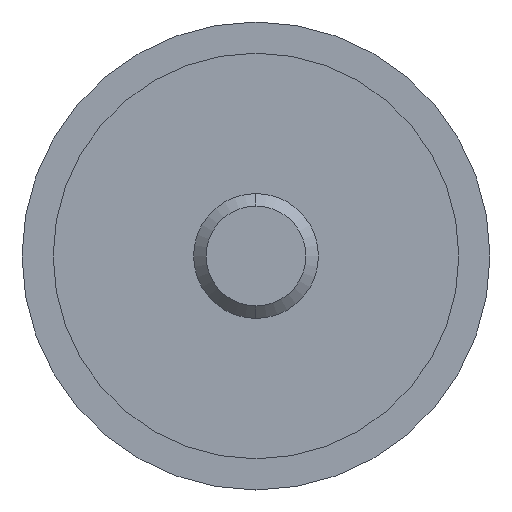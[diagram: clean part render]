
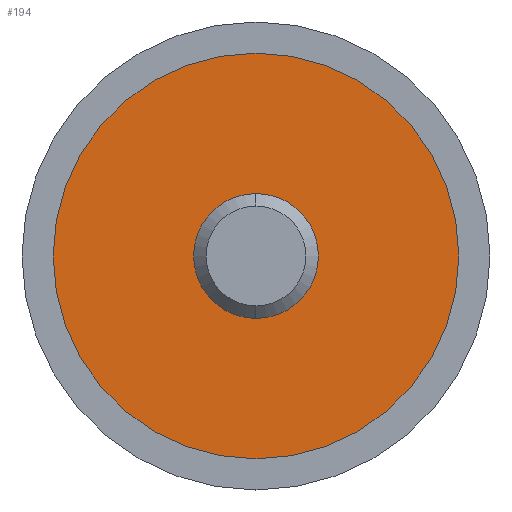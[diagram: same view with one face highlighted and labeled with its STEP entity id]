
A CAD part, left-side view. The second image highlights one B-rep face of the part: STEP entity #194.
In plain terms, the highlighted planar face has unit normal (-1, 0, 0).
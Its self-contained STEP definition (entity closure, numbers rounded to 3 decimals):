
#5 = ORIENTED_EDGE ( 'NONE', *, *, #678, .F. ) ;
#10 = AXIS2_PLACEMENT_3D ( 'NONE', #648, #281, #602 ) ;
#15 = CARTESIAN_POINT ( 'NONE',  ( -7.49, 13., 0. ) ) ;
#67 = CARTESIAN_POINT ( 'NONE',  ( -7.49, 0., -4. ) ) ;
#74 = PLANE ( 'NONE',  #484 ) ;
#77 = DIRECTION ( 'NONE',  ( 0., 0., -1. ) ) ;
#104 = CIRCLE ( 'NONE', #105, 4. ) ;
#105 = AXIS2_PLACEMENT_3D ( 'NONE', #172, #491, #77 ) ;
#106 = EDGE_CURVE ( 'NONE', #373, #145, #104, .T. ) ;
#123 = EDGE_CURVE ( 'NONE', #350, #569, #376, .T. ) ;
#134 = CARTESIAN_POINT ( 'NONE',  ( -7.49, 0., -13. ) ) ;
#143 = EDGE_LOOP ( 'NONE', ( #666, #306 ) ) ;
#145 = VERTEX_POINT ( 'NONE', #67 ) ;
#162 = CIRCLE ( 'NONE', #202, 4. ) ;
#172 = CARTESIAN_POINT ( 'NONE',  ( -7.49, 0., 0. ) ) ;
#187 = CIRCLE ( 'NONE', #10, 13. ) ;
#194 = ADVANCED_FACE ( 'NONE', ( #652, #268 ), #74, .F. ) ;
#202 = AXIS2_PLACEMENT_3D ( 'NONE', #247, #396, #612 ) ;
#204 = EDGE_CURVE ( 'NONE', #569, #350, #187, .T. ) ;
#216 = DIRECTION ( 'NONE',  ( 0., 0., -1. ) ) ;
#226 = DIRECTION ( 'NONE',  ( -1., 0., 0. ) ) ;
#247 = CARTESIAN_POINT ( 'NONE',  ( -7.49, 0., 0. ) ) ;
#268 = FACE_BOUND ( 'NONE', #598, .T. ) ;
#281 = DIRECTION ( 'NONE',  ( -1., 0., 0. ) ) ;
#306 = ORIENTED_EDGE ( 'NONE', *, *, #204, .T. ) ;
#325 = ORIENTED_EDGE ( 'NONE', *, *, #106, .F. ) ;
#331 = DIRECTION ( 'NONE',  ( 0., 0., 1. ) ) ;
#350 = VERTEX_POINT ( 'NONE', #420 ) ;
#373 = VERTEX_POINT ( 'NONE', #523 ) ;
#376 = CIRCLE ( 'NONE', #600, 13. ) ;
#380 = CARTESIAN_POINT ( 'NONE',  ( -7.49, 0., 0. ) ) ;
#396 = DIRECTION ( 'NONE',  ( -1., 0., 0. ) ) ;
#420 = CARTESIAN_POINT ( 'NONE',  ( -7.49, 0., 13. ) ) ;
#437 = DIRECTION ( 'NONE',  ( 1., 0., 0. ) ) ;
#484 = AXIS2_PLACEMENT_3D ( 'NONE', #15, #437, #216 ) ;
#491 = DIRECTION ( 'NONE',  ( -1., 0., 0. ) ) ;
#523 = CARTESIAN_POINT ( 'NONE',  ( -7.49, 0., 4. ) ) ;
#569 = VERTEX_POINT ( 'NONE', #134 ) ;
#598 = EDGE_LOOP ( 'NONE', ( #325, #5 ) ) ;
#600 = AXIS2_PLACEMENT_3D ( 'NONE', #380, #226, #331 ) ;
#602 = DIRECTION ( 'NONE',  ( 0., 0., 1. ) ) ;
#612 = DIRECTION ( 'NONE',  ( 0., 0., -1. ) ) ;
#648 = CARTESIAN_POINT ( 'NONE',  ( -7.49, 0., 0. ) ) ;
#652 = FACE_OUTER_BOUND ( 'NONE', #143, .T. ) ;
#666 = ORIENTED_EDGE ( 'NONE', *, *, #123, .T. ) ;
#678 = EDGE_CURVE ( 'NONE', #145, #373, #162, .T. ) ;
